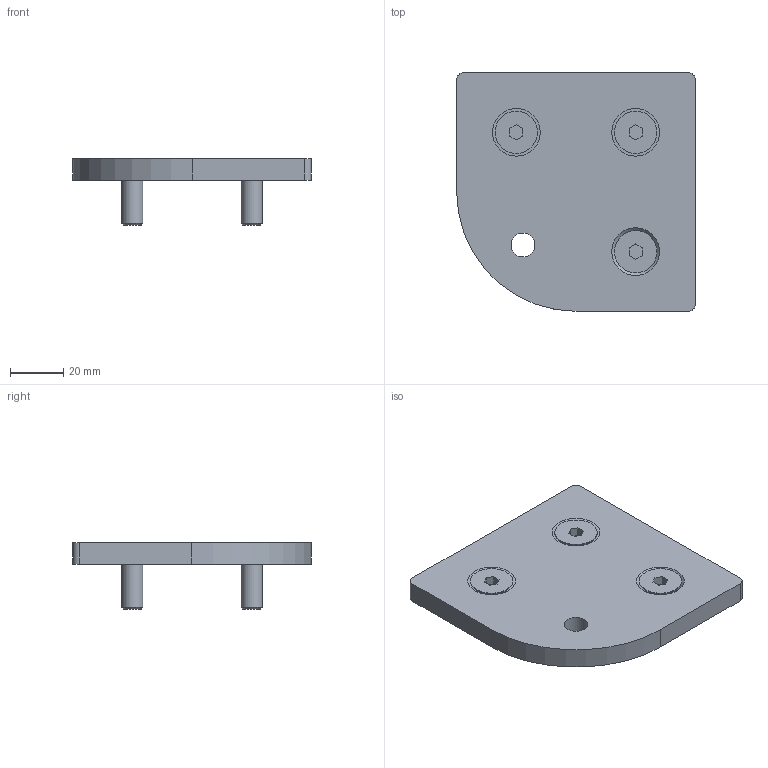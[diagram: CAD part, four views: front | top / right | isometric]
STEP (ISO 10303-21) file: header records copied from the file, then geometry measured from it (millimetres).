
FILE_DESCRIPTION(/* description */ ('CONNECTING PLATE 90X90X45'),/* implementation_level */ '2;1');
FILE_NAME(/* name */ '21.2505 CONNECTING PLATE 90X90X45.stp',/* time_stamp */ '2024-02-16T14:31:22-05:00',/* author */ ('amoles'),/* organization */ (''),/* preprocessor_version */ 'ST-DEVELOPER v19.2',/* originating_system */ 'Autodesk Inventor 2024',/* authorisation */ '');
FILE_SCHEMA (('AUTOMOTIVE_DESIGN { 1 0 10303 214 3 1 1 }'));
Length unit declared in the file: millimetre
Products named in the file (3): 21.2505 ; 21.2505/1; 21.1520 
Assembly tree (1 placements, depth 2):
  21.2505 
    21.2505/1
  21.1520 
Bounding box: 90 x 90 x 25 mm (x, y, z)
Volume: 62624.6 mm3; surface area: 21432.3 mm2
Topology: 4 solids, 4 shells, 59 faces, 141 edges, 93 vertices
Faces by surface type: plane 33, cylinder 14, cone 9, torus 3
Full cylindrical faces by diameter (mm): 8 x3, 9 x4, 16 x3
Entity records: 1081 total; most frequent: DIRECTION 185, CARTESIAN_POINT 166, ORIENTED_EDGE 154, EDGE_CURVE 77, AXIS2_PLACEMENT_3D 70, VERTEX_POINT 51, LINE 45, VECTOR 45
